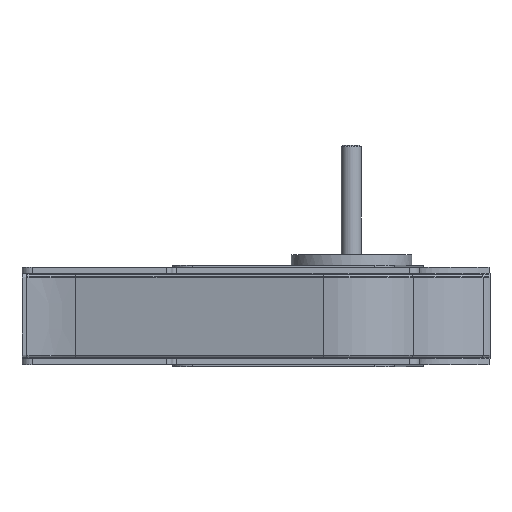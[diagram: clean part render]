
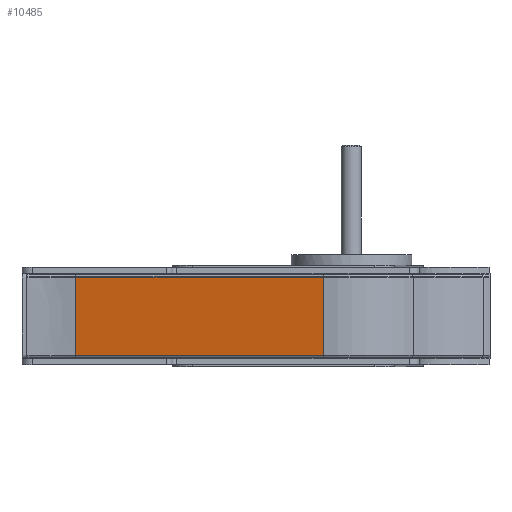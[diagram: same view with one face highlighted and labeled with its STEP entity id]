
A CAD part, front view. The second image highlights one B-rep face of the part: STEP entity #10485.
In plain terms, the highlighted planar face has unit normal (-0.222, -0.975, 0).
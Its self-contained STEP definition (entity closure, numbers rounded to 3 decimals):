
#505 = VECTOR ( 'NONE', #12888, 1000. ) ;
#888 = EDGE_CURVE ( 'NONE', #10050, #16152, #14413, .T. ) ;
#1804 = DIRECTION ( 'NONE',  ( -0.975, 0.222, 0. ) ) ;
#1844 = CARTESIAN_POINT ( 'NONE',  ( 53.353, -62.976, -38.866 ) ) ;
#3171 = VECTOR ( 'NONE', #11150, 1000. ) ;
#3574 = VECTOR ( 'NONE', #15319, 1000. ) ;
#3996 = EDGE_CURVE ( 'NONE', #16152, #9532, #7871, .T. ) ;
#4728 = CARTESIAN_POINT ( 'NONE',  ( 299.693, -119.147, -38.866 ) ) ;
#4772 = CARTESIAN_POINT ( 'NONE',  ( 299.693, -119.147, 38.866 ) ) ;
#5410 = EDGE_CURVE ( 'NONE', #10050, #14054, #16495, .T. ) ;
#5729 = CARTESIAN_POINT ( 'NONE',  ( 299.693, -119.147, 38.866 ) ) ;
#6001 = CARTESIAN_POINT ( 'NONE',  ( 53.353, -62.976, 38.866 ) ) ;
#7109 = ORIENTED_EDGE ( 'NONE', *, *, #5410, .T. ) ;
#7268 = ORIENTED_EDGE ( 'NONE', *, *, #3996, .F. ) ;
#7595 = AXIS2_PLACEMENT_3D ( 'NONE', #4772, #11279, #1804 ) ;
#7696 = ORIENTED_EDGE ( 'NONE', *, *, #888, .F. ) ;
#7871 = LINE ( 'NONE', #9831, #3171 ) ;
#8097 = CARTESIAN_POINT ( 'NONE',  ( 299.693, -119.147, 38.866 ) ) ;
#9532 = VERTEX_POINT ( 'NONE', #1844 ) ;
#9831 = CARTESIAN_POINT ( 'NONE',  ( 299.693, -119.147, -38.866 ) ) ;
#10050 = VERTEX_POINT ( 'NONE', #11858 ) ;
#10485 = ADVANCED_FACE ( 'NONE', ( #11468 ), #11212, .F. ) ;
#11150 = DIRECTION ( 'NONE',  ( -0.975, 0.222, 0. ) ) ;
#11212 = PLANE ( 'NONE',  #7595 ) ;
#11279 = DIRECTION ( 'NONE',  ( 0.222, 0.975, 0. ) ) ;
#11468 = FACE_OUTER_BOUND ( 'NONE', #14868, .T. ) ;
#11858 = CARTESIAN_POINT ( 'NONE',  ( 299.693, -119.147, 38.866 ) ) ;
#12888 = DIRECTION ( 'NONE',  ( 0., 0., -1. ) ) ;
#14054 = VERTEX_POINT ( 'NONE', #17704 ) ;
#14413 = LINE ( 'NONE', #8097, #505 ) ;
#14868 = EDGE_LOOP ( 'NONE', ( #7696, #7109, #19500, #7268 ) ) ;
#15319 = DIRECTION ( 'NONE',  ( -0.975, 0.222, 0. ) ) ;
#16061 = VECTOR ( 'NONE', #17150, 1000. ) ;
#16152 = VERTEX_POINT ( 'NONE', #4728 ) ;
#16495 = LINE ( 'NONE', #5729, #3574 ) ;
#16660 = EDGE_CURVE ( 'NONE', #14054, #9532, #20277, .T. ) ;
#17150 = DIRECTION ( 'NONE',  ( 0., 0., -1. ) ) ;
#17704 = CARTESIAN_POINT ( 'NONE',  ( 53.353, -62.976, 38.866 ) ) ;
#19500 = ORIENTED_EDGE ( 'NONE', *, *, #16660, .T. ) ;
#20277 = LINE ( 'NONE', #6001, #16061 ) ;
